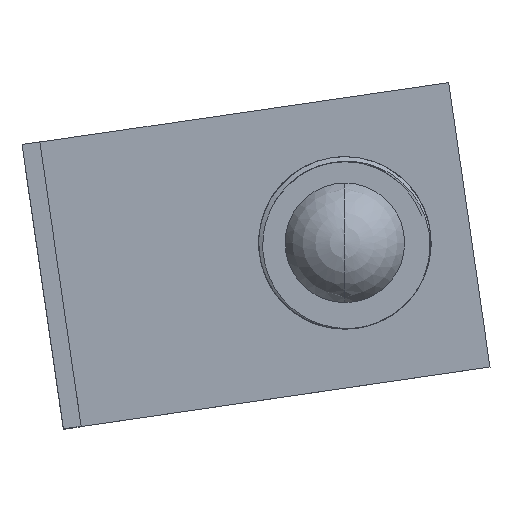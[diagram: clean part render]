
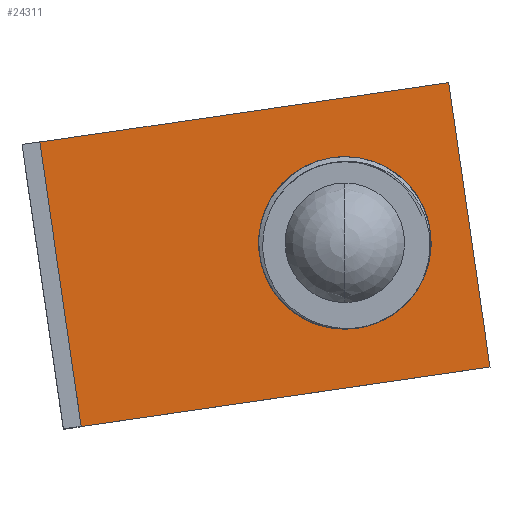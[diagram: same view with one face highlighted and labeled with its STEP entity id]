
A CAD part, top view. The second image highlights one B-rep face of the part: STEP entity #24311.
In plain terms, the highlighted planar face has unit normal (0, 0, 1) as drawn and (0, -1, 0) by its records, which use the part's own axes.
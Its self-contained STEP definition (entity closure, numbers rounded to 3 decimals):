
#23833=DIRECTION('',(1.,0.,0.));
#23834=VECTOR('',#23833,80.);
#23835=CARTESIAN_POINT('',(-40.,-2.5,5.));
#23836=LINE('',#23835,#23834);
#23897=DIRECTION('',(0.,0.,1.));
#23898=VECTOR('',#23897,115.);
#23899=CARTESIAN_POINT('',(-40.,-2.5,5.));
#23900=LINE('',#23899,#23898);
#23901=CARTESIAN_POINT('',(0.,-2.5,85.));
#23902=DIRECTION('',(0.,1.,0.));
#23903=DIRECTION('',(0.,0.,1.));
#23904=AXIS2_PLACEMENT_3D('',#23901,#23902,#23903);
#23906=CARTESIAN_POINT('',(0.,-2.5,85.));
#23907=DIRECTION('',(0.,1.,0.));
#23908=DIRECTION('',(0.,0.,-1.));
#23909=AXIS2_PLACEMENT_3D('',#23906,#23907,#23908);
#23933=DIRECTION('',(0.,0.,1.));
#23934=VECTOR('',#23933,115.);
#23935=CARTESIAN_POINT('',(40.,-2.5,5.));
#23936=LINE('',#23935,#23934);
#23953=DIRECTION('',(1.,0.,0.));
#23954=VECTOR('',#23953,80.);
#23955=CARTESIAN_POINT('',(-40.,-2.5,120.));
#23956=LINE('',#23955,#23954);
#24030=CARTESIAN_POINT('',(-40.,-2.5,120.));
#24032=VERTEX_POINT('',#24030);
#24033=CARTESIAN_POINT('',(40.,-2.5,120.));
#24034=VERTEX_POINT('',#24033);
#24037=CARTESIAN_POINT('',(-40.,-2.5,5.));
#24038=CARTESIAN_POINT('',(40.,-2.5,5.));
#24039=VERTEX_POINT('',#24037);
#24040=VERTEX_POINT('',#24038);
#24045=CARTESIAN_POINT('',(0.,-2.5,109.));
#24046=CARTESIAN_POINT('',(0.,-2.5,61.));
#24047=VERTEX_POINT('',#24045);
#24048=VERTEX_POINT('',#24046);
#24291=CARTESIAN_POINT('',(-40.,-2.5,5.));
#24292=DIRECTION('',(0.,-1.,0.));
#24293=DIRECTION('',(1.,0.,0.));
#24294=AXIS2_PLACEMENT_3D('',#24291,#24292,#24293);
#24295=PLANE('',#24294);
#24296=ORIENTED_EDGE('',*,*,#24132,.F.);
#24298=ORIENTED_EDGE('',*,*,#24297,.T.);
#24300=ORIENTED_EDGE('',*,*,#24299,.T.);
#24302=ORIENTED_EDGE('',*,*,#24301,.F.);
#24303=EDGE_LOOP('',(#24296,#24298,#24300,#24302));
#24304=FACE_OUTER_BOUND('',#24303,.F.);
#24306=ORIENTED_EDGE('',*,*,#24305,.F.);
#24308=ORIENTED_EDGE('',*,*,#24307,.F.);
#24309=EDGE_LOOP('',(#24306,#24308));
#24310=FACE_BOUND('',#24309,.F.);
#24311=ADVANCED_FACE('',(#24304,#24310),#24295,.T.);
#23905=CIRCLE('',#23904,24.);
#23910=CIRCLE('',#23909,24.);
#24132=EDGE_CURVE('',#24039,#24040,#23836,.T.);
#24297=EDGE_CURVE('',#24039,#24032,#23900,.T.);
#24299=EDGE_CURVE('',#24032,#24034,#23956,.T.);
#24301=EDGE_CURVE('',#24040,#24034,#23936,.T.);
#24305=EDGE_CURVE('',#24047,#24048,#23905,.T.);
#24307=EDGE_CURVE('',#24048,#24047,#23910,.T.);
